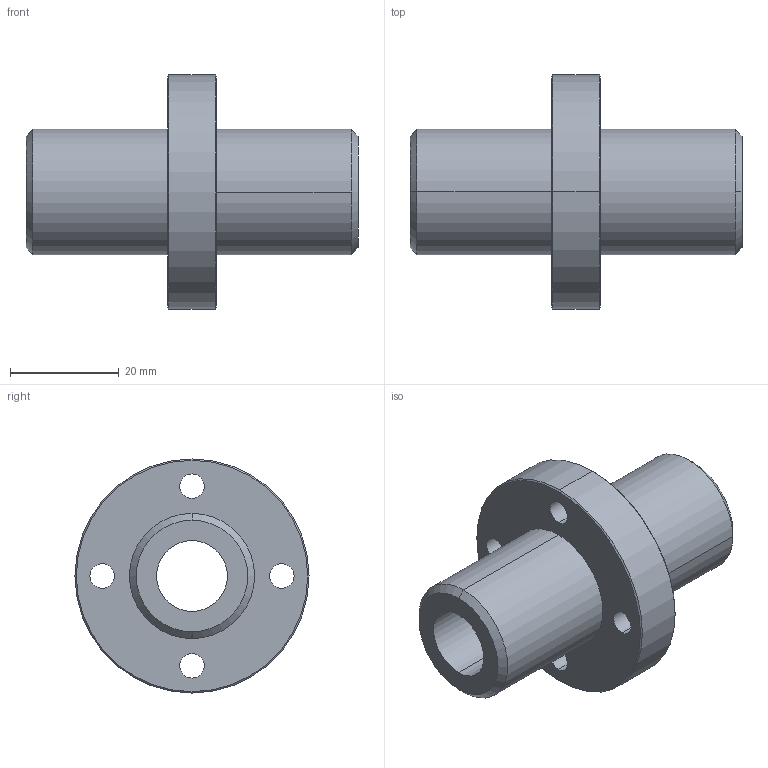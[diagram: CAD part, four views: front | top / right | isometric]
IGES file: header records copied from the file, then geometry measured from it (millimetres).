
Start section: 3D InterOp IGES (Version 21 0 1), Spatial Corp. Copyright (c) 1999-2007.
Global section: file name: CFPJR13.igs; native system: Spatial Corp.; preprocessor: 3D InterOp GENERIC/IGES 3.0; author: Noname; organization: Noname; date: 20220324.131802; units: millimetre
Bounding box: 61 x 43 x 43 mm (x, y, z)
Surface area: 10489.4 mm2 (no closed solid volume)
Topology: 0 solids, 0 shells, 40 faces, 180 edges, 180 vertices
Faces by surface type: revolution 32, extrusion 8
